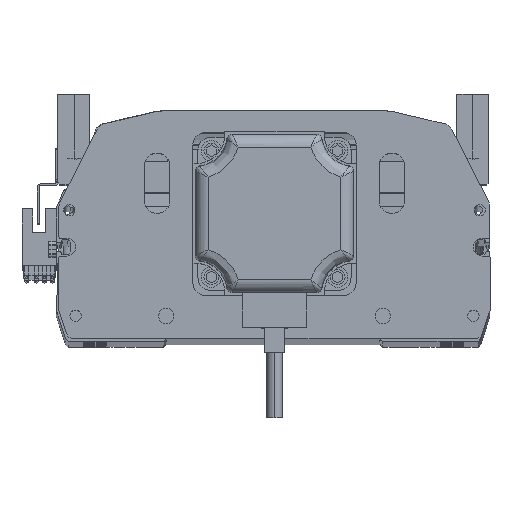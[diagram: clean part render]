
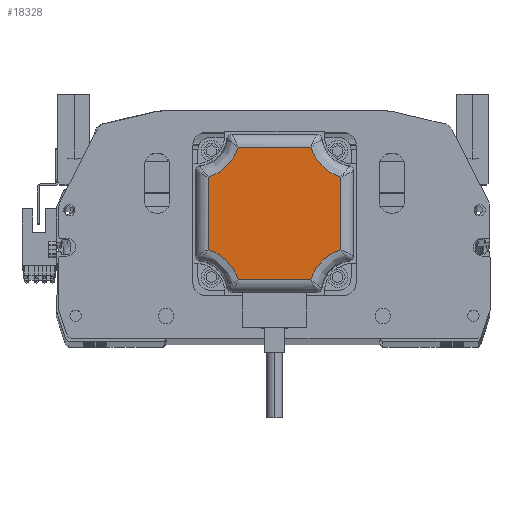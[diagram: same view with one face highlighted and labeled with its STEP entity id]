
A CAD part, top view. The second image highlights one B-rep face of the part: STEP entity #18328.
In plain terms, the highlighted planar face has unit normal (0, 0, 1) as drawn and (0, 0, -1) by its records, which use the part's own axes.
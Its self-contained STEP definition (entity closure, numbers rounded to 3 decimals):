
#358 = EDGE_CURVE ( 'NONE', #21825, #23234, #47668, .T. ) ;
#1052 = EDGE_CURVE ( 'NONE', #34465, #27411, #28252, .T. ) ;
#3817 = DIRECTION ( 'NONE',  ( 1., 0., 0. ) ) ;
#4444 = LINE ( 'NONE', #30094, #41191 ) ;
#4471 = ORIENTED_EDGE ( 'NONE', *, *, #20027, .F. ) ;
#7467 = CARTESIAN_POINT ( 'NONE',  ( -15.953, 20.219, -116.5 ) ) ;
#7790 = LINE ( 'NONE', #15624, #23890 ) ;
#8070 = ORIENTED_EDGE ( 'NONE', *, *, #1052, .F. ) ;
#9876 = DIRECTION ( 'NONE',  ( 0., 0., 1. ) ) ;
#10177 = ORIENTED_EDGE ( 'NONE', *, *, #358, .F. ) ;
#10612 = CARTESIAN_POINT ( 'NONE',  ( 26., 14.229, -116.5 ) ) ;
#11240 = CARTESIAN_POINT ( 'NONE',  ( -14.229, -26., -116.5 ) ) ;
#12490 = CARTESIAN_POINT ( 'NONE',  ( -15.5, -26., -116.5 ) ) ;
#13145 = CARTESIAN_POINT ( 'NONE',  ( 26., -14.229, -116.5 ) ) ;
#13787 = ORIENTED_EDGE ( 'NONE', *, *, #36750, .F. ) ;
#14905 = CARTESIAN_POINT ( 'NONE',  ( -20.219, 15.953, -116.5 ) ) ;
#14958 = ORIENTED_EDGE ( 'NONE', *, *, #43426, .F. ) ;
#15417 = DIRECTION ( 'NONE',  ( 0., 1., 0. ) ) ;
#15624 = CARTESIAN_POINT ( 'NONE',  ( -26., 15.5, -116.5 ) ) ;
#15751 = CARTESIAN_POINT ( 'NONE',  ( -14.229, -26., -116.5 ) ) ;
#16434 = VECTOR ( 'NONE', #38512, 1000. ) ;
#16925 = CARTESIAN_POINT ( 'NONE',  ( -26., 14.229, -116.5 ) ) ;
#17661 = AXIS2_PLACEMENT_3D ( 'NONE', #37693, #9876, #25818 ) ;
#18328 = ADVANCED_FACE ( 'NONE', ( #45925 ), #21830, .F. ) ;
#18716 = CARTESIAN_POINT ( 'NONE',  ( -26., -14.229, -116.5 ) ) ;
#19401 = CARTESIAN_POINT ( 'NONE',  ( -20.219, -15.953, -116.5 ) ) ;
#20027 = EDGE_CURVE ( 'NONE', #38913, #21825, #41860, .T. ) ;
#20216 = VERTEX_POINT ( 'NONE', #16925 ) ;
#20315 = CARTESIAN_POINT ( 'NONE',  ( -26., -14.229, -116.5 ) ) ;
#20760 = ORIENTED_EDGE ( 'NONE', *, *, #44807, .F. ) ;
#21036 = CARTESIAN_POINT ( 'NONE',  ( -14.229, 26., -116.5 ) ) ;
#21178 = CARTESIAN_POINT ( 'NONE',  ( 14.229, -26., -116.5 ) ) ;
#21825 = VERTEX_POINT ( 'NONE', #15751 ) ;
#21830 = PLANE ( 'NONE',  #17661 ) ;
#22682 =( BOUNDED_CURVE ( )  B_SPLINE_CURVE ( 3, ( #25115, #32794, #44488, #13145 ),
 .UNSPECIFIED., .F., .F. ) 
 B_SPLINE_CURVE_WITH_KNOTS ( ( 4, 4 ),
 ( 0., 1. ),
 .UNSPECIFIED. ) 
 CURVE ( )  GEOMETRIC_REPRESENTATION_ITEM ( )  RATIONAL_B_SPLINE_CURVE ( ( 1., 0.92, 0.92, 1. ) ) 
 REPRESENTATION_ITEM ( '' )  );
#23234 = VERTEX_POINT ( 'NONE', #21178 ) ;
#23397 = CARTESIAN_POINT ( 'NONE',  ( 26., 14.229, -116.5 ) ) ;
#23543 = EDGE_LOOP ( 'NONE', ( #20760, #8070, #13787, #51004, #50534, #10177, #4471, #14958 ) ) ;
#23571 = CARTESIAN_POINT ( 'NONE',  ( -14.229, 26., -116.5 ) ) ;
#23656 =( BOUNDED_CURVE ( )  B_SPLINE_CURVE ( 3, ( #23571, #7467, #14905, #35282 ),
 .UNSPECIFIED., .F., .F. ) 
 B_SPLINE_CURVE_WITH_KNOTS ( ( 4, 4 ),
 ( 0., 1. ),
 .UNSPECIFIED. ) 
 CURVE ( )  GEOMETRIC_REPRESENTATION_ITEM ( )  RATIONAL_B_SPLINE_CURVE ( ( 1., 0.92, 0.92, 1. ) ) 
 REPRESENTATION_ITEM ( '' )  );
#23890 = VECTOR ( 'NONE', #46994, 1000. ) ;
#25115 = CARTESIAN_POINT ( 'NONE',  ( 14.229, -26., -116.5 ) ) ;
#25818 = DIRECTION ( 'NONE',  ( 1., 0., 0. ) ) ;
#26847 = CARTESIAN_POINT ( 'NONE',  ( -15.953, -20.219, -116.5 ) ) ;
#27411 = VERTEX_POINT ( 'NONE', #21036 ) ;
#28252 = LINE ( 'NONE', #39188, #16434 ) ;
#28724 = CARTESIAN_POINT ( 'NONE',  ( 14.229, 26., -116.5 ) ) ;
#30094 = CARTESIAN_POINT ( 'NONE',  ( 26., -15.5, -116.5 ) ) ;
#31599 = CARTESIAN_POINT ( 'NONE',  ( 15.953, 20.219, -116.5 ) ) ;
#32307 = EDGE_CURVE ( 'NONE', #42089, #41074, #4444, .T. ) ;
#32794 = CARTESIAN_POINT ( 'NONE',  ( 15.953, -20.219, -116.5 ) ) ;
#33838 = EDGE_CURVE ( 'NONE', #23234, #42089, #22682, .T. ) ;
#34465 = VERTEX_POINT ( 'NONE', #28724 ) ;
#34944 = CARTESIAN_POINT ( 'NONE',  ( 20.219, 15.953, -116.5 ) ) ;
#35282 = CARTESIAN_POINT ( 'NONE',  ( -26., 14.229, -116.5 ) ) ;
#36750 = EDGE_CURVE ( 'NONE', #41074, #34465, #45992, .T. ) ;
#37064 = VECTOR ( 'NONE', #3817, 1000. ) ;
#37693 = CARTESIAN_POINT ( 'NONE',  ( 0., 0., -116.5 ) ) ;
#38512 = DIRECTION ( 'NONE',  ( -1., 0., 0. ) ) ;
#38913 = VERTEX_POINT ( 'NONE', #20315 ) ;
#39188 = CARTESIAN_POINT ( 'NONE',  ( 15.5, 26., -116.5 ) ) ;
#41074 = VERTEX_POINT ( 'NONE', #10612 ) ;
#41191 = VECTOR ( 'NONE', #15417, 1000. ) ;
#41564 = CARTESIAN_POINT ( 'NONE',  ( 26., -14.229, -116.5 ) ) ;
#41860 =( BOUNDED_CURVE ( )  B_SPLINE_CURVE ( 3, ( #18716, #19401, #26847, #11240 ),
 .UNSPECIFIED., .F., .T. ) 
 B_SPLINE_CURVE_WITH_KNOTS ( ( 4, 4 ),
 ( 0., 1. ),
 .UNSPECIFIED. ) 
 CURVE ( )  GEOMETRIC_REPRESENTATION_ITEM ( )  RATIONAL_B_SPLINE_CURVE ( ( 1., 0.92, 0.92, 1. ) ) 
 REPRESENTATION_ITEM ( '' )  );
#42089 = VERTEX_POINT ( 'NONE', #41564 ) ;
#43426 = EDGE_CURVE ( 'NONE', #20216, #38913, #7790, .T. ) ;
#44488 = CARTESIAN_POINT ( 'NONE',  ( 20.219, -15.953, -116.5 ) ) ;
#44807 = EDGE_CURVE ( 'NONE', #27411, #20216, #23656, .T. ) ;
#45925 = FACE_OUTER_BOUND ( 'NONE', #23543, .T. ) ;
#45992 =( BOUNDED_CURVE ( )  B_SPLINE_CURVE ( 3, ( #23397, #34944, #31599, #47622 ),
 .UNSPECIFIED., .F., .F. ) 
 B_SPLINE_CURVE_WITH_KNOTS ( ( 4, 4 ),
 ( 0., 1. ),
 .UNSPECIFIED. ) 
 CURVE ( )  GEOMETRIC_REPRESENTATION_ITEM ( )  RATIONAL_B_SPLINE_CURVE ( ( 1., 0.92, 0.92, 1. ) ) 
 REPRESENTATION_ITEM ( '' )  );
#46994 = DIRECTION ( 'NONE',  ( 0., -1., 0. ) ) ;
#47622 = CARTESIAN_POINT ( 'NONE',  ( 14.229, 26., -116.5 ) ) ;
#47668 = LINE ( 'NONE', #12490, #37064 ) ;
#50534 = ORIENTED_EDGE ( 'NONE', *, *, #33838, .F. ) ;
#51004 = ORIENTED_EDGE ( 'NONE', *, *, #32307, .F. ) ;
